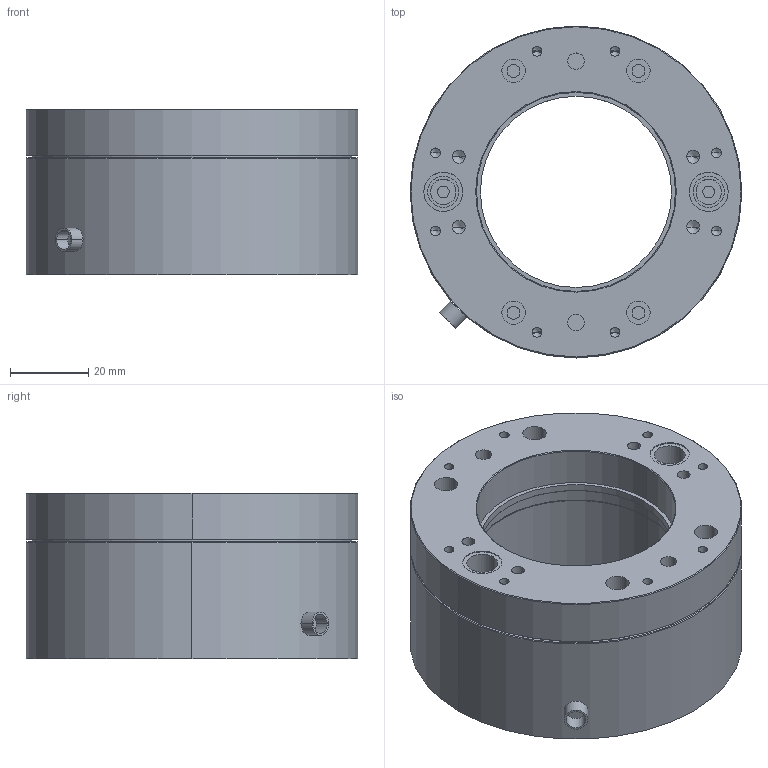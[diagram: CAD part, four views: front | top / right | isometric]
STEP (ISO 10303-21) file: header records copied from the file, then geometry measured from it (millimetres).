
FILE_DESCRIPTION (( 'STEP AP203' ), '1' );
FILE_NAME ('P77A.S50-B1.STEP', '2024-02-22T02:38:18', ( '' ), ( '' ), 'SwSTEP 2.0', 'SolidWorks 2016', '' );
FILE_SCHEMA (( 'CONFIG_CONTROL_DESIGN' ));
Length unit declared in the file: millimetre
Products named in the file (1): P77A.S50-B1
Bounding box: 85 x 85 x 42.5 mm (x, y, z)
Volume: 146563.8 mm3; surface area: 31445.5 mm2
Topology: 2 solids, 3 shells, 194 faces, 436 edges, 246 vertices
Faces by surface type: cylinder 104, cone 62, plane 28
Entity records: 5175 total; most frequent: DIRECTION 1000, CARTESIAN_POINT 829, ORIENTED_EDGE 776, AXIS2_PLACEMENT_3D 417, EDGE_CURVE 388, VERTEX_POINT 246, EDGE_LOOP 246, CIRCLE 222
